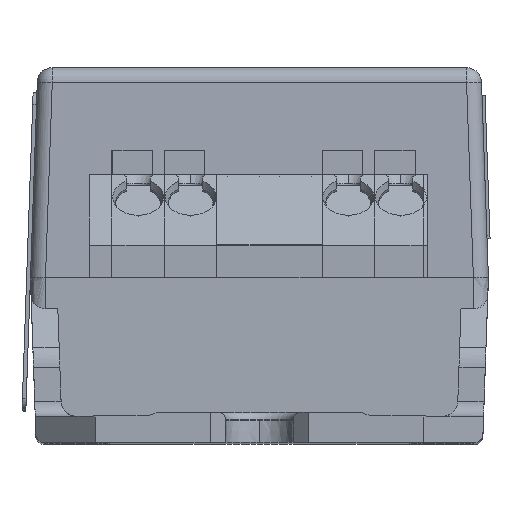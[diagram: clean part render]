
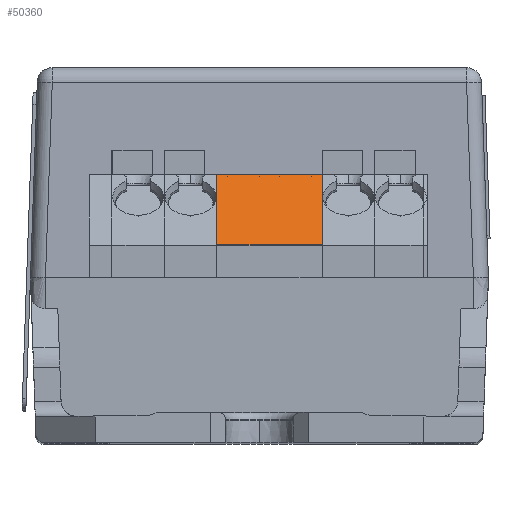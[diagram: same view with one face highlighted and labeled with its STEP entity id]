
A CAD part, top view. The second image highlights one B-rep face of the part: STEP entity #50360.
In plain terms, the highlighted planar face has unit normal (0, 0.707, 0.707).
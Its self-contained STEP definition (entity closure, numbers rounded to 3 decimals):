
#2048 = ORIENTED_EDGE ( 'NONE', *, *, #72602, .T. ) ;
#2761 = ORIENTED_EDGE ( 'NONE', *, *, #26702, .T. ) ;
#3821 = VECTOR ( 'NONE', #74335, 1000. ) ;
#12164 = VECTOR ( 'NONE', #43779, 1000. ) ;
#15677 = LINE ( 'NONE', #18785, #75157 ) ;
#18731 = CARTESIAN_POINT ( 'NONE',  ( 5.25, 6.818, 4.718 ) ) ;
#18785 = CARTESIAN_POINT ( 'NONE',  ( 12.25, 11.518, 0.018 ) ) ;
#22289 = CARTESIAN_POINT ( 'NONE',  ( 12.25, 6.818, 4.718 ) ) ;
#24640 = CARTESIAN_POINT ( 'NONE',  ( 0., 5.768, 5.768 ) ) ;
#26580 = ORIENTED_EDGE ( 'NONE', *, *, #76447, .T. ) ;
#26702 = EDGE_CURVE ( 'NONE', #76051, #28014, #35586, .T. ) ;
#27818 = ORIENTED_EDGE ( 'NONE', *, *, #42274, .T. ) ;
#28002 = LINE ( 'NONE', #49441, #12164 ) ;
#28014 = VERTEX_POINT ( 'NONE', #18731 ) ;
#30543 = DIRECTION ( 'NONE',  ( 0., 0.707, 0.707 ) ) ;
#33025 = CARTESIAN_POINT ( 'NONE',  ( 5.25, 11.518, 0.018 ) ) ;
#34997 = VERTEX_POINT ( 'NONE', #54474 ) ;
#35586 = LINE ( 'NONE', #33025, #3821 ) ;
#42274 = EDGE_CURVE ( 'NONE', #34997, #76051, #51770, .T. ) ;
#43779 = DIRECTION ( 'NONE',  ( 1., 0., 0. ) ) ;
#48301 = VERTEX_POINT ( 'NONE', #22289 ) ;
#49441 = CARTESIAN_POINT ( 'NONE',  ( 5.25, 6.818, 4.718 ) ) ;
#49446 = CARTESIAN_POINT ( 'NONE',  ( 5.25, 11.518, 0.018 ) ) ;
#49877 = VECTOR ( 'NONE', #57645, 1000. ) ;
#50360 = ADVANCED_FACE ( 'NONE', ( #56373 ), #60183, .T. ) ;
#51653 = CARTESIAN_POINT ( 'NONE',  ( 5.25, 11.518, 0.018 ) ) ;
#51770 = LINE ( 'NONE', #51653, #49877 ) ;
#52754 = EDGE_LOOP ( 'NONE', ( #2761, #2048, #26580, #27818 ) ) ;
#54474 = CARTESIAN_POINT ( 'NONE',  ( 12.25, 11.518, 0.018 ) ) ;
#56373 = FACE_OUTER_BOUND ( 'NONE', #52754, .T. ) ;
#57645 = DIRECTION ( 'NONE',  ( -1., 0., 0. ) ) ;
#60183 = PLANE ( 'NONE',  #71353 ) ;
#71353 = AXIS2_PLACEMENT_3D ( 'NONE', #24640, #30543, #72127 ) ;
#72127 = DIRECTION ( 'NONE',  ( 0., -0.707, 0.707 ) ) ;
#72533 = DIRECTION ( 'NONE',  ( 0., 0.707, -0.707 ) ) ;
#72602 = EDGE_CURVE ( 'NONE', #28014, #48301, #28002, .T. ) ;
#74335 = DIRECTION ( 'NONE',  ( 0., -0.707, 0.707 ) ) ;
#75157 = VECTOR ( 'NONE', #72533, 1000. ) ;
#76051 = VERTEX_POINT ( 'NONE', #49446 ) ;
#76447 = EDGE_CURVE ( 'NONE', #48301, #34997, #15677, .T. ) ;
